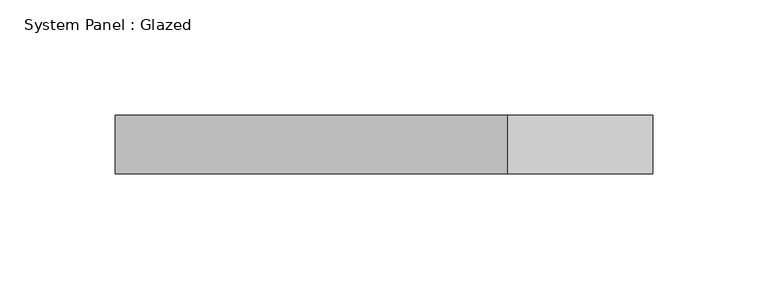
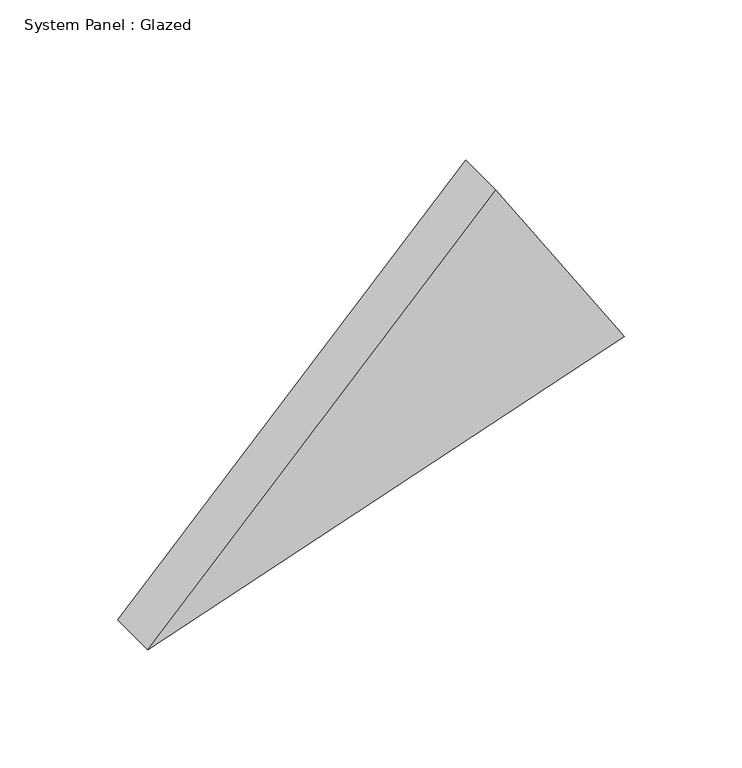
"""IFC4 building model written with IfcOpenShell, lengths in millimetres: plate geometry, System Panel : Glazed."""

from ifc_helpers import new_model, si_unit, frame, origin, place, context, project, spatial, polyline, outline, extrude, source, transform, mapped, element, save


def system_panel_glazed_2eba2ceb(model_context):
    return source(origin(), model_context, "Body", "SweptSolid", [
        extrude(outline(polyline([(0.0, -116.7635939), (80.8160009, 116.7635939), (178.7704762, 53.844994), (0.0, -116.7635939)])), frame((0.0, -44.45, 0.0), z_axis=(0.0, 1.0, 0.0), x_axis=(0.0, 0.0, 1.0)), (0.0, 0.0, 1.0), 25.4),
    ])


if __name__ == "__main__":
    model = new_model("IFC4")
    model_context = context("Model", 3, world=origin())
    ifc_project = project(units=[si_unit("LENGTHUNIT", "METRE", prefix="MILLI")], contexts=[model_context])
    site = spatial("IfcSite", under=ifc_project)
    building = spatial("IfcBuilding", under=site)
    placement = place(None, origin())
    system_panel_glazed_shape = system_panel_glazed_2eba2ceb(model_context)
    element("IfcPlate", 1, ObjectType="System Panel : Glazed", at=placement, inside=building, context=model_context, shape_type="MappedRepresentation", body=[
        mapped(system_panel_glazed_shape, transform((0.0, 0.0, 0.0), x_axis=(1.0, 0.0, 0.0), y_axis=(0.0, 1.0, 0.0), z_axis=(0.0, 0.0, 1.0))),
    ])
    save(model, "model.ifc")
